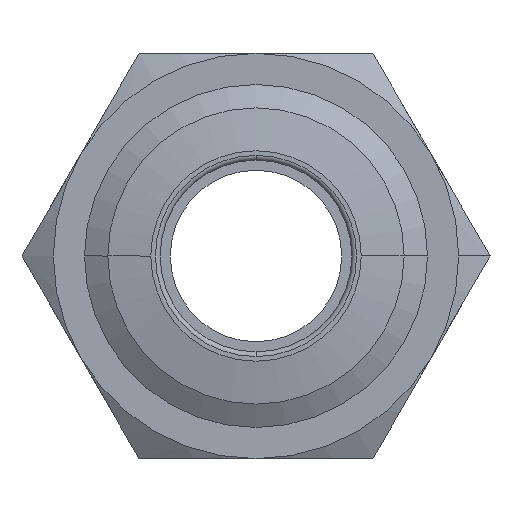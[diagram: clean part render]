
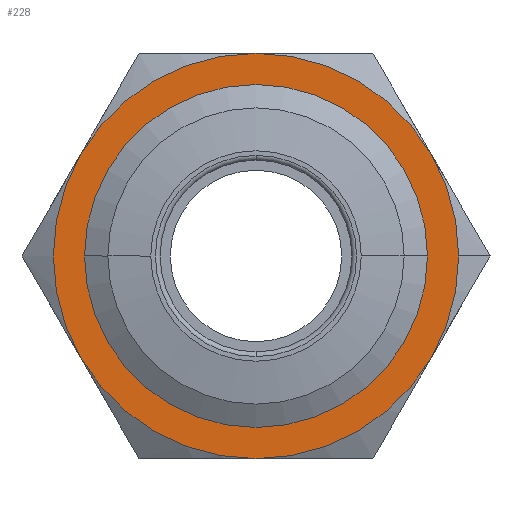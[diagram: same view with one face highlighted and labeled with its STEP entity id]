
A CAD part, front view. The second image highlights one B-rep face of the part: STEP entity #228.
In plain terms, the highlighted planar face has unit normal (0, -1, 0).
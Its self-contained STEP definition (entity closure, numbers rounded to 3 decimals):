
#66 = CARTESIAN_POINT ( 'NONE',  ( 11.258, -6.5, 6.5 ) ) ;
#80 = AXIS2_PLACEMENT_3D ( 'NONE', #855, #2044, #1045 ) ;
#90 = DIRECTION ( 'NONE',  ( 1., 0., 0. ) ) ;
#101 = CARTESIAN_POINT ( 'NONE',  ( 0., -6.5, 0. ) ) ;
#116 = CIRCLE ( 'NONE', #1630, 13. ) ;
#119 = CIRCLE ( 'NONE', #326, 11. ) ;
#158 = CARTESIAN_POINT ( 'NONE',  ( 0., -6.5, 0. ) ) ;
#170 = DIRECTION ( 'NONE',  ( 0., -1., 0. ) ) ;
#174 = EDGE_CURVE ( 'NONE', #2604, #546, #116, .T. ) ;
#184 = CIRCLE ( 'NONE', #1348, 11. ) ;
#213 = DIRECTION ( 'NONE',  ( 0., -1., 0. ) ) ;
#228 = ADVANCED_FACE ( 'NONE', ( #626, #652 ), #2581, .T. ) ;
#236 = DIRECTION ( 'NONE',  ( 0., -1., 0. ) ) ;
#283 = CIRCLE ( 'NONE', #1756, 13. ) ;
#319 = VERTEX_POINT ( 'NONE', #676 ) ;
#326 = AXIS2_PLACEMENT_3D ( 'NONE', #649, #236, #1842 ) ;
#334 = DIRECTION ( 'NONE',  ( 1., 0., 0. ) ) ;
#349 = DIRECTION ( 'NONE',  ( 0., -1., 0. ) ) ;
#363 = CARTESIAN_POINT ( 'NONE',  ( 0., -6.5, 0. ) ) ;
#367 = DIRECTION ( 'NONE',  ( 1., 0., 0. ) ) ;
#432 = CIRCLE ( 'NONE', #1186, 13. ) ;
#502 = AXIS2_PLACEMENT_3D ( 'NONE', #907, #2382, #517 ) ;
#517 = DIRECTION ( 'NONE',  ( 1., 0., 0. ) ) ;
#544 = AXIS2_PLACEMENT_3D ( 'NONE', #1994, #834, #1020 ) ;
#546 = VERTEX_POINT ( 'NONE', #2284 ) ;
#621 = DIRECTION ( 'NONE',  ( 1., 0., 0. ) ) ;
#626 = FACE_OUTER_BOUND ( 'NONE', #1531, .T. ) ;
#649 = CARTESIAN_POINT ( 'NONE',  ( 0., -6.5, 0. ) ) ;
#652 = FACE_BOUND ( 'NONE', #1031, .T. ) ;
#668 = CIRCLE ( 'NONE', #80, 13. ) ;
#676 = CARTESIAN_POINT ( 'NONE',  ( -11., -6.5, 0. ) ) ;
#720 = ORIENTED_EDGE ( 'NONE', *, *, #174, .T. ) ;
#760 = VERTEX_POINT ( 'NONE', #2123 ) ;
#834 = DIRECTION ( 'NONE',  ( 0., -1., 0. ) ) ;
#855 = CARTESIAN_POINT ( 'NONE',  ( 0., -6.5, 0. ) ) ;
#856 = EDGE_CURVE ( 'NONE', #319, #760, #119, .T. ) ;
#877 = ORIENTED_EDGE ( 'NONE', *, *, #1637, .F. ) ;
#889 = VERTEX_POINT ( 'NONE', #1809 ) ;
#892 = EDGE_CURVE ( 'NONE', #925, #2472, #668, .T. ) ;
#907 = CARTESIAN_POINT ( 'NONE',  ( 0., -6.5, 0. ) ) ;
#925 = VERTEX_POINT ( 'NONE', #66 ) ;
#980 = CARTESIAN_POINT ( 'NONE',  ( 0., -6.5, -13. ) ) ;
#1020 = DIRECTION ( 'NONE',  ( 1., 0., 0. ) ) ;
#1031 = EDGE_LOOP ( 'NONE', ( #877, #2577 ) ) ;
#1036 = EDGE_CURVE ( 'NONE', #2179, #2604, #1634, .T. ) ;
#1045 = DIRECTION ( 'NONE',  ( 1., 0., 0. ) ) ;
#1093 = ORIENTED_EDGE ( 'NONE', *, *, #2393, .T. ) ;
#1095 = EDGE_CURVE ( 'NONE', #889, #925, #283, .T. ) ;
#1162 = DIRECTION ( 'NONE',  ( 1., 0., 0. ) ) ;
#1186 = AXIS2_PLACEMENT_3D ( 'NONE', #158, #2375, #367 ) ;
#1348 = AXIS2_PLACEMENT_3D ( 'NONE', #2010, #213, #621 ) ;
#1379 = CARTESIAN_POINT ( 'NONE',  ( -11.258, -6.5, -6.5 ) ) ;
#1523 = CARTESIAN_POINT ( 'NONE',  ( 0., -6.5, 13. ) ) ;
#1531 = EDGE_LOOP ( 'NONE', ( #2009, #2374, #1966, #2488, #1093, #1826, #720 ) ) ;
#1630 = AXIS2_PLACEMENT_3D ( 'NONE', #1708, #349, #90 ) ;
#1634 = CIRCLE ( 'NONE', #2176, 13. ) ;
#1637 = EDGE_CURVE ( 'NONE', #760, #319, #184, .T. ) ;
#1650 = CARTESIAN_POINT ( 'NONE',  ( 12., -6.5, 0. ) ) ;
#1708 = CARTESIAN_POINT ( 'NONE',  ( 0., -6.5, 0. ) ) ;
#1736 = CARTESIAN_POINT ( 'NONE',  ( -11.258, -6.5, 6.5 ) ) ;
#1756 = AXIS2_PLACEMENT_3D ( 'NONE', #363, #2350, #1162 ) ;
#1809 = CARTESIAN_POINT ( 'NONE',  ( 13., -6.5, 0. ) ) ;
#1826 = ORIENTED_EDGE ( 'NONE', *, *, #1036, .T. ) ;
#1842 = DIRECTION ( 'NONE',  ( 1., 0., 0. ) ) ;
#1845 = EDGE_CURVE ( 'NONE', #546, #889, #2484, .T. ) ;
#1847 = DIRECTION ( 'NONE',  ( 0., 0., -1. ) ) ;
#1958 = EDGE_CURVE ( 'NONE', #2472, #2441, #2515, .T. ) ;
#1966 = ORIENTED_EDGE ( 'NONE', *, *, #892, .T. ) ;
#1994 = CARTESIAN_POINT ( 'NONE',  ( 0., -6.5, 0. ) ) ;
#2009 = ORIENTED_EDGE ( 'NONE', *, *, #1845, .T. ) ;
#2010 = CARTESIAN_POINT ( 'NONE',  ( 0., -6.5, 0. ) ) ;
#2044 = DIRECTION ( 'NONE',  ( 0., -1., 0. ) ) ;
#2123 = CARTESIAN_POINT ( 'NONE',  ( 11., -6.5, 0. ) ) ;
#2176 = AXIS2_PLACEMENT_3D ( 'NONE', #101, #2546, #334 ) ;
#2179 = VERTEX_POINT ( 'NONE', #1379 ) ;
#2284 = CARTESIAN_POINT ( 'NONE',  ( 11.258, -6.5, -6.5 ) ) ;
#2350 = DIRECTION ( 'NONE',  ( 0., -1., 0. ) ) ;
#2374 = ORIENTED_EDGE ( 'NONE', *, *, #1095, .T. ) ;
#2375 = DIRECTION ( 'NONE',  ( 0., -1., 0. ) ) ;
#2382 = DIRECTION ( 'NONE',  ( 0., -1., 0. ) ) ;
#2393 = EDGE_CURVE ( 'NONE', #2441, #2179, #432, .T. ) ;
#2441 = VERTEX_POINT ( 'NONE', #1736 ) ;
#2472 = VERTEX_POINT ( 'NONE', #1523 ) ;
#2484 = CIRCLE ( 'NONE', #502, 13. ) ;
#2488 = ORIENTED_EDGE ( 'NONE', *, *, #1958, .T. ) ;
#2515 = CIRCLE ( 'NONE', #544, 13. ) ;
#2531 = AXIS2_PLACEMENT_3D ( 'NONE', #1650, #170, #1847 ) ;
#2546 = DIRECTION ( 'NONE',  ( 0., -1., 0. ) ) ;
#2577 = ORIENTED_EDGE ( 'NONE', *, *, #856, .F. ) ;
#2581 = PLANE ( 'NONE',  #2531 ) ;
#2604 = VERTEX_POINT ( 'NONE', #980 ) ;
